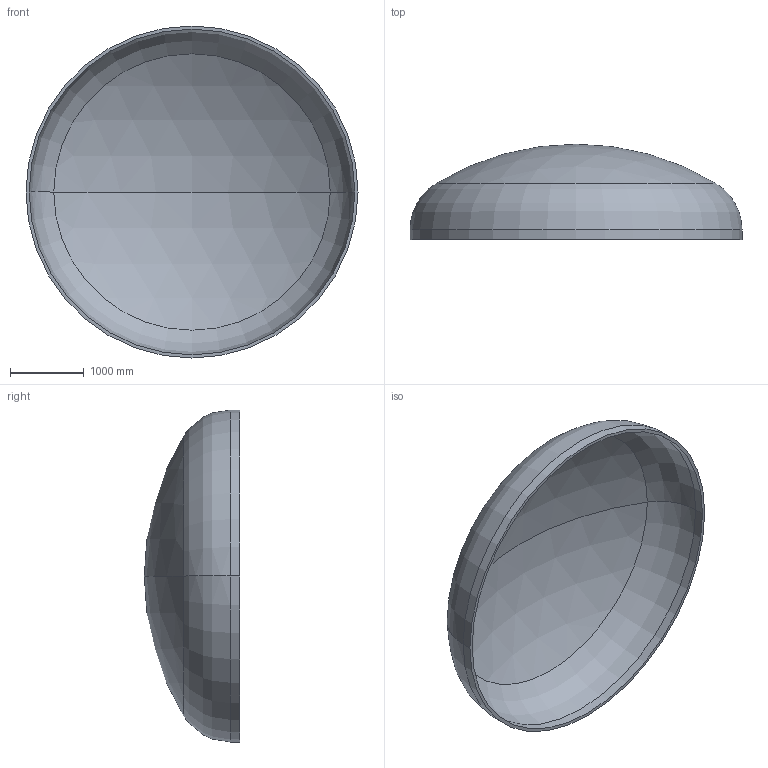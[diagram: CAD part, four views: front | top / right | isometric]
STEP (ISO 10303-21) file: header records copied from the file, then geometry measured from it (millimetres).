
FILE_DESCRIPTION (( 'STEP AP203' ), '1' );
FILE_NAME ('DIN 28013 Korbbogenform_-_Boden DIN 28013 - 4500 x 130 - I - s=43.step', '2016-07-01T23:26:33', ( '' ), ( '' ), 'SwSTEP 2.0', 'SolidWorks 2013', '' );
FILE_SCHEMA (( 'CONFIG_CONTROL_DESIGN' ));
Length unit declared in the file: millimetre
Products named in the file (1): DIN 28013 Korbbogenform_-_Boden DIN 28013 - 4500 x 130 - I - s=43
Bounding box: 4500 x 1292.5 x 4500 mm (x, y, z)
Volume: 1014078907.8 mm3; surface area: 47772405.3 mm2
Topology: 1 solids, 1 shells, 13 faces, 24 edges, 14 vertices
Faces by surface type: torus 4, cylinder 4, sphere 4, plane 1
Entity records: 407 total; most frequent: DIRECTION 72, CARTESIAN_POINT 52, ORIENTED_EDGE 48, AXIS2_PLACEMENT_3D 34, EDGE_CURVE 24, CIRCLE 20, EDGE_LOOP 14, VERTEX_POINT 14
